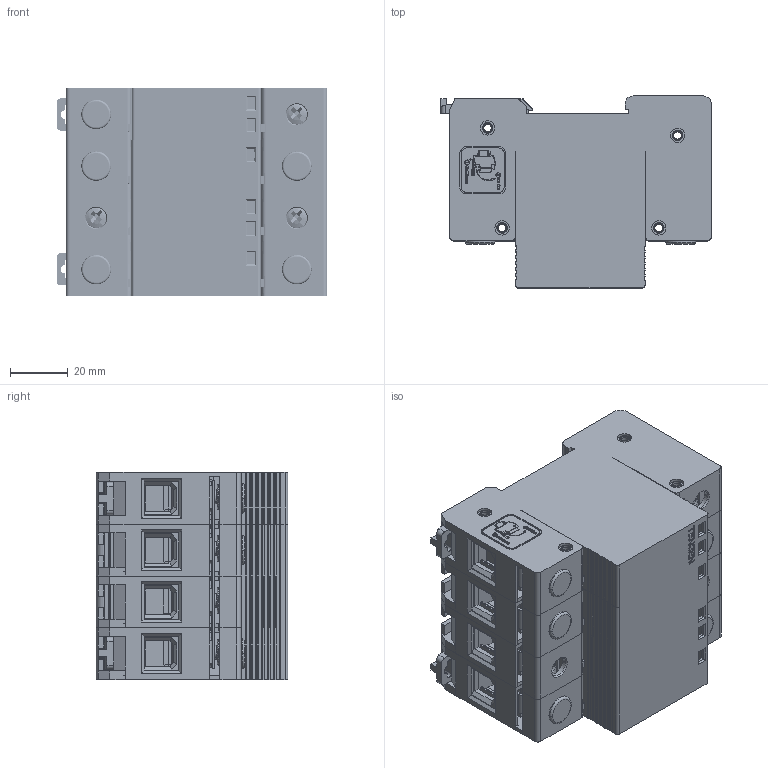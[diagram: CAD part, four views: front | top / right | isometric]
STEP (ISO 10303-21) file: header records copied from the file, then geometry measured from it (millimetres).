
FILE_DESCRIPTION((''),'2;1');
FILE_NAME('TENGEN_TGDY55II_100_385V_2P','2024-01-10T16:44:38',('zhanghualong1'),(''),'CREO PARAMETRIC BY PTC INC, 2020354','CREO PARAMETRIC BY PTC INC, 2020354','');
FILE_SCHEMA(('CONFIG_CONTROL_DESIGN'));
Products named in the file (1): TENGEN_TGDY55II_100_385V_2P
Bounding box: 94.1 x 66.7 x 72 mm (x, y, z)
Volume: 124479.7 mm3; surface area: 207041.1 mm2
Topology: 22 solids, 35 shells, 7502 faces, 20316 edges, 13115 vertices
Faces by surface type: plane 5387, cylinder 1477, extrusion 236, cone 178, torus 134, bspline 56, sphere 34
Entity records: 241252 total; most frequent: CARTESIAN_POINT 51650, ORIENTED_EDGE 40596, DIRECTION 37104, EDGE_CURVE 20298, VECTOR 16370, LINE 16134, VERTEX_POINT 13115, AXIS2_PLACEMENT_3D 10367
